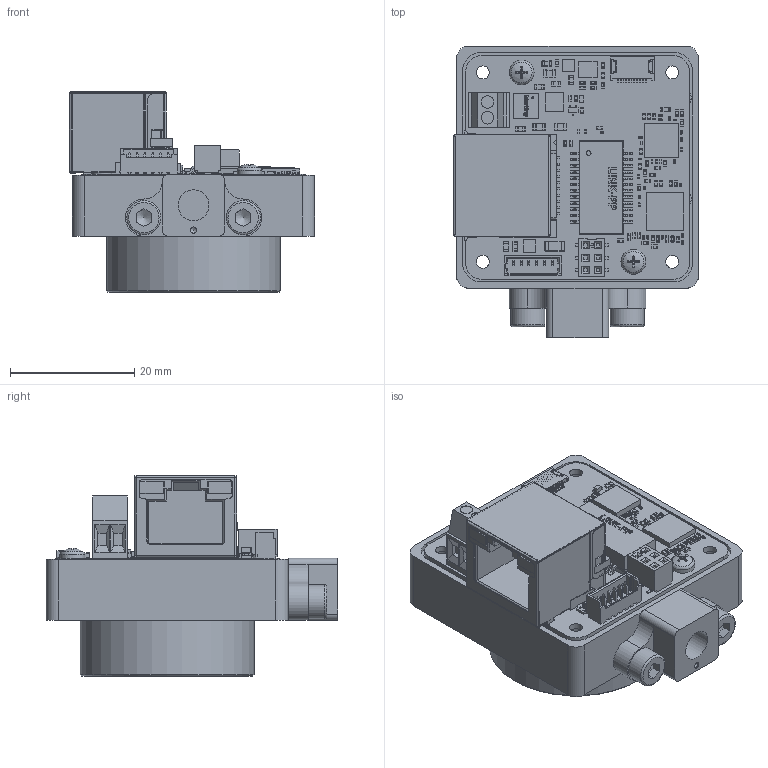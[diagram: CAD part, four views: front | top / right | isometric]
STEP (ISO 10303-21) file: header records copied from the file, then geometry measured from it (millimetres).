
FILE_DESCRIPTION(/* description */ (''),/* implementation_level */ '2;1');
FILE_NAME(/* name */ 'KSM_308-24-07-00-00_ZB C-MountKamera_GigE-4SB_IMX568.stp',/* time_stamp */ '2025-06-06T11:12:40+02:00',/* author */ ('khw'),/* organization */ ('TIS/ Germany'),/* preprocessor_version */ 'ST-DEVELOPER v20',/* originating_system */ 'Autodesk Inventor 2025',/* authorisation */ '520025 mm^3');
FILE_SCHEMA (('AUTOMOTIVE_DESIGN { 1 0 10303 214 3 1 1 }'));
Length unit declared in the file: millimetre
Products named in the file (4): KSM_308-24-07-00-00_ZB C-MountKamera_GigE-4SB_IMX568; 2_308-24-07-00-00_ZB C-MountKamera_GigE-4SB_IMX568; TripodAdapter 14-20-UNC; Zylinderschraube M3x6
Assembly tree (4 placements, depth 2):
  KSM_308-24-07-00-00_ZB C-MountKamera_GigE-4SB_IMX568
    2_308-24-07-00-00_ZB C-MountKamera_GigE-4SB_IMX568
    TripodAdapter 14-20-UNC
    Zylinderschraube M3x6  x2
Bounding box: 39.49 x 47 x 32.26 mm (x, y, z)
Volume: 16681.6 mm3; surface area: 14525.5 mm2
Topology: 11 solids, 11 shells, 8515 faces, 20854 edges, 11687 vertices
Faces by surface type: plane 3893, cylinder 3151, torus 702, sphere 698, cone 37, bspline 34
Full cylindrical faces by diameter (mm): 0.3 x1, 0.5 x6, 0.739 x1, 1 x1, 1.05 x2, 1.2 x2, 1.567 x2, 2.032 x2, 2.1 x4, 2.459 x8, 3 x2, 3.2 x2, 4.978 x1, 5.5 x2, 24.536 x1, 28 x1
Entity records: 249659 total; most frequent: DIRECTION 43417, CARTESIAN_POINT 41920, ORIENTED_EDGE 40224, EDGE_CURVE 20112, AXIS2_PLACEMENT_3D 14950, LINE 13517, VECTOR 13517, VERTEX_POINT 11663
